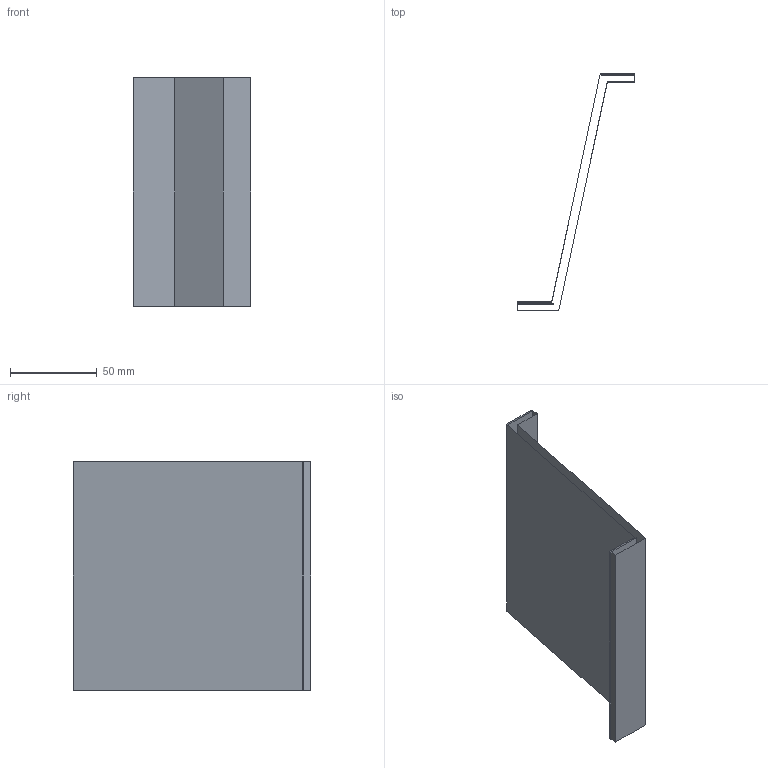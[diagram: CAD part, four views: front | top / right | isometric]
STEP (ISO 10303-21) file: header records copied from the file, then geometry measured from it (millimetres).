
FILE_DESCRIPTION(('CATIA V5 STEP Exchange'),'2;1');
FILE_NAME('C:\_Andres\UNIVERSIDAD\IQS\ASIGNATURAS\DAO\EXF\EXF-16172c\2inicio\Sarasa_Prat_Ej06_v32.stp','2017-03-05T21:01:29+00:00',('none'),('none'),'CATIA Version 5-6 Release 2014 SP1 HF18','CATIA V5 STEP AP203','none');
FILE_SCHEMA(('CONFIG_CONTROL_DESIGN'));
Length unit declared in the file: millimetre
Products named in the file (1): Sarasa_Prat_Ej06_v32
Bounding box: 68 x 137 x 132 mm (x, y, z)
Surface area: 52519.4 mm2 (no closed solid volume)
Topology: 0 solids, 2 shells, 10 faces, 42 edges, 36 vertices
Faces by surface type: plane 10
Entity records: 461 total; most frequent: CARTESIAN_POINT 100, DIRECTION 59, ORIENTED_EDGE 40, VECTOR 39, LINE 39, EDGE_CURVE 32, VERTEX_POINT 24, AXIS2_PLACEMENT_3D 11
